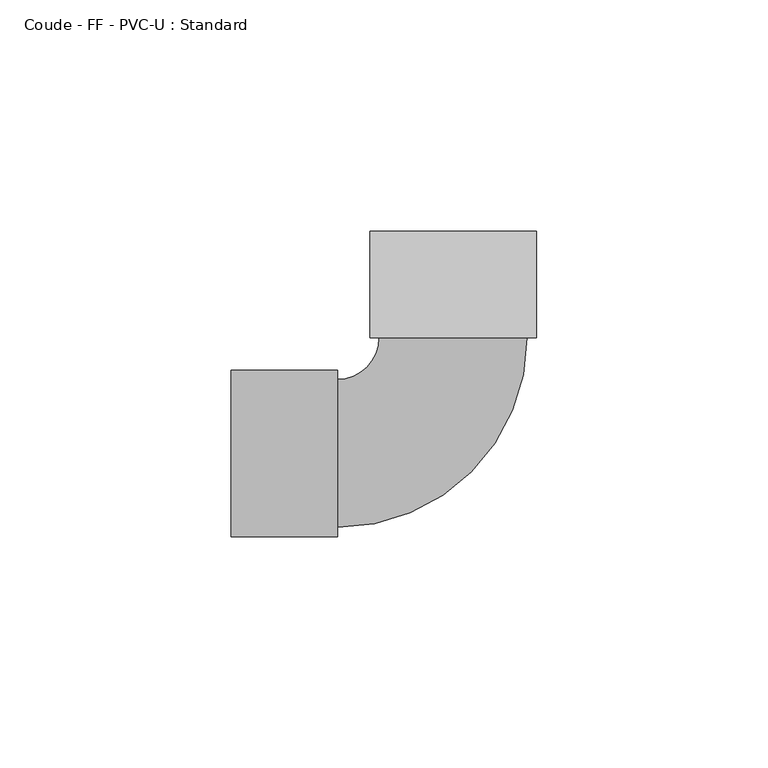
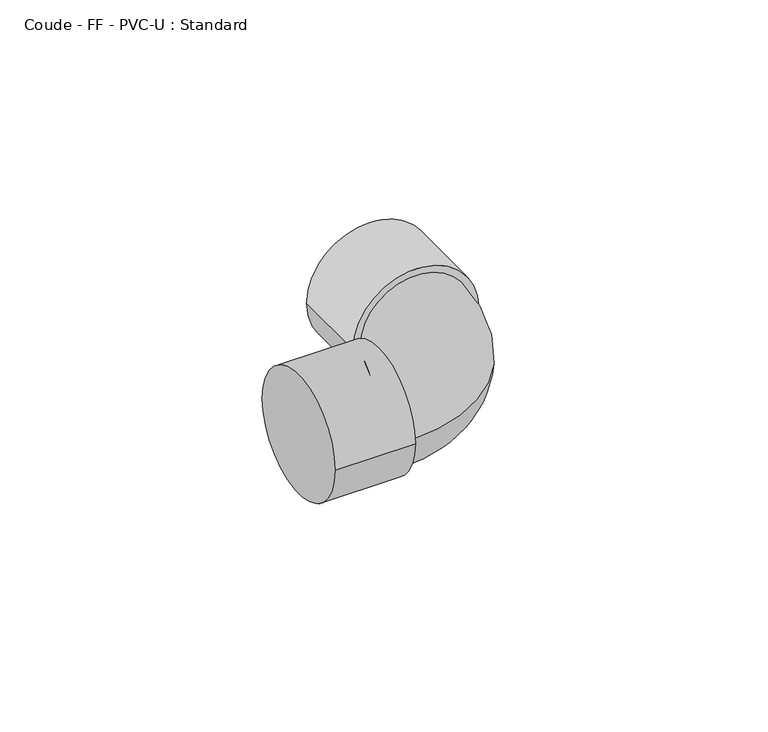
"""IFC4 building model written with IfcOpenShell, lengths in millimetres: pipe fitting geometry, Coude - FF - PVC-U : Standard."""

from ifc_helpers import new_model, si_unit, point, frame, origin, place, context, project, spatial, circle_curve, ellipse_curve, trimmed, source, transform, mapped, element, save
from ifc_brep_helpers import plane_surface, cylinder_surface, revolved_surface, advanced_brep


def coude_ff_pvc_u_standard_af8978ce(model_context):
    return source(origin(), model_context, "Body", "AdvancedBrep", [
        advanced_brep(
        [(-48.0, -18.0, 0.0), (-48.0, 18.0, 0.0), (-25.0, -18.0, 0.0), (-25.0, 18.0, 0.0), (-25.0, -16.0, 0.0), (-25.0, 16.0, 0.0), (-15.9807972, 25.0122794, 0.0), (16.0191933, 24.9877059, 0.0), (18.0191927, 24.98617, 0.0), (-17.9807966, 25.0138152, 0.0), (18.0368549, 47.9861633, 0.0), (-17.9631344, 48.0138084, 0.0)],
        [
            (0, 1, circle_curve(frame((-48.0, 0.0, 0.0), z_axis=(-1.0, 0.0, 0.0), x_axis=(0.0, 1.0, 0.0)), 18.0)),
            (1, 0, circle_curve(frame((-48.0, 0.0, 0.0), z_axis=(-1.0, 0.0, 0.0), x_axis=(0.0, 1.0, 0.0)), 18.0)),
            (2, 3, circle_curve(frame((-25.0, 0.0, 0.0), z_axis=(1.0, 0.0, 0.0), x_axis=(0.0, 1.0, 0.0)), 18.0)),
            (3, 2, circle_curve(frame((-25.0, 0.0, 0.0), z_axis=(1.0, 0.0, 0.0), x_axis=(0.0, 1.0, 0.0)), 18.0)),
            (4, 5, circle_curve(frame((-25.0, 0.0, 0.0), z_axis=(-1.0, 0.0, 0.0), x_axis=(0.0, 1.0, 0.0)), 16.0)),
            (5, 4, circle_curve(frame((-25.0, 0.0, 0.0), z_axis=(-1.0, 0.0, 0.0), x_axis=(0.0, 1.0, 0.0)), 16.0)),
            (0, 2),
            (3, 1),
            (6, 5, circle_curve(frame((-25.0, 25.0192054, 0.0), z_axis=(0.0, 0.0, -1.0), x_axis=(0.0, -1.0, 0.0)), 9.0192054)),
            (4, 7, circle_curve(frame((-25.0, 25.0192054, 0.0), z_axis=(0.0, 0.0, 1.0), x_axis=(0.0, -1.0, 0.0)), 41.0192054)),
            (7, 6, circle_curve(frame((0.0191981, 24.9999926, 0.0), z_axis=(-0.0007679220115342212, -0.9999997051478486, 0.0), x_axis=(-0.9999997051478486, 0.0007679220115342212, 0.0)), 16.0)),
            (6, 7, circle_curve(frame((0.0191981, 24.9999926, 0.0), z_axis=(-0.0007679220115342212, -0.9999997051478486, 0.0), x_axis=(-0.9999997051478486, 0.0007679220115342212, 0.0)), 16.0)),
            (8, 9, circle_curve(frame((0.0191981, 24.9999926, 0.0), z_axis=(-0.0007679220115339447, -0.9999997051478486, 0.0), x_axis=(-0.9999997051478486, 0.0007679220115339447, 0.0)), 18.0)),
            (9, 8, circle_curve(frame((0.0191981, 24.9999926, 0.0), z_axis=(-0.0007679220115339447, -0.9999997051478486, 0.0), x_axis=(-0.9999997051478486, 0.0007679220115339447, 0.0)), 18.0)),
            (10, 11, circle_curve(frame((0.0368603, 47.9999858, 0.0), z_axis=(0.0007679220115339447, 0.9999997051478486, 0.0), x_axis=(-0.9999997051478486, 0.0007679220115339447, 0.0)), 18.0)),
            (11, 10, circle_curve(frame((0.0368603, 47.9999858, 0.0), z_axis=(0.0007679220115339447, 0.9999997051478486, 0.0), x_axis=(-0.9999997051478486, 0.0007679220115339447, 0.0)), 18.0)),
            (8, 10),
            (11, 9),
        ],
        [
            plane_surface(frame((-48.0, 0.0, 0.0), z_axis=(-1.0, 0.0, 0.0), x_axis=(0.0, 0.0, 1.0))),
            plane_surface(frame((-25.0, 0.0, 0.0), z_axis=(1.0, 0.0, 0.0), x_axis=(0.0, 0.0, 1.0))),
            cylinder_surface(frame((-48.0, 0.0, 0.0), z_axis=(-1.0, 0.0, 0.0), x_axis=(0.0, 1.0, 0.0)), 18.0),
            revolved_surface(trimmed(ellipse_curve(frame((-25.0, 0.0, 0.0), z_axis=(-1.0, 0.0, 0.0), x_axis=(0.0, 1.0, 0.0)), 16.0, 16.0), [point((-25.0, -16.0, 0.0))], [point((-25.0, 16.0, 0.0))], True, "CARTESIAN"), (-25.0, 25.0192054, 0.0), (0.0, 0.0, 1.0)),
            revolved_surface(trimmed(ellipse_curve(frame((-25.0, 0.0, 0.0), z_axis=(-1.0, 0.0, 0.0), x_axis=(0.0, 1.0, 0.0)), 16.0, 16.0), [point((-25.0, 16.0, 0.0))], [point((-25.0, -16.0, 0.0))], True, "CARTESIAN"), (-25.0, 25.0192054, 0.0), (0.0, 0.0, 1.0)),
            plane_surface(frame((0.0191981, 24.9999926, 0.0), z_axis=(-0.0007679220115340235, -0.9999997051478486, 0.0), x_axis=(0.0, 0.0, 1.0))),
            plane_surface(frame((0.0368603, 47.9999858, 0.0), z_axis=(0.0007679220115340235, 0.9999997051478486, 0.0), x_axis=(0.0, 0.0, 1.0))),
            cylinder_surface(frame((0.0191981, 24.9999926, 0.0), z_axis=(-0.0007679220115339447, -0.9999997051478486, 0.0), x_axis=(-0.9999997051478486, 0.0007679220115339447, 0.0)), 18.0),
        ],
        [
            (0, [[1, 2]]),
            (1, [[3, 4], [5, 6]]),
            (2, [[-1, 7, -4, 8]]),
            (2, [[-2, -8, -3, -7]]),
            (3, [[9, -5, 10, 11]]),
            (4, [[-9, 12, -10, -6]]),
            (5, [[13, 14], [-11, -12]]),
            (6, [[15, 16]]),
            (7, [[-13, 17, -16, 18]]),
            (7, [[-14, -18, -15, -17]]),
        ],
    ),
    ])


if __name__ == "__main__":
    model = new_model("IFC4")
    model_context = context("Model", 3, world=origin())
    ifc_project = project(units=[si_unit("LENGTHUNIT", "METRE", prefix="MILLI")], contexts=[model_context])
    site = spatial("IfcSite", under=ifc_project)
    building = spatial("IfcBuilding", under=site)
    placement = place(None, origin())
    coude_ff_pvc_u_standard_shape = coude_ff_pvc_u_standard_af8978ce(model_context)
    element("IfcPipeFitting", 1, ObjectType="Coude - FF - PVC-U : Standard", at=placement, inside=building, context=model_context, shape_type="MappedRepresentation", body=[
        mapped(coude_ff_pvc_u_standard_shape, transform((0.0, 0.0, 0.0), x_axis=(1.0, 0.0, 0.0), y_axis=(0.0, 1.0, 0.0), z_axis=(0.0, 0.0, 1.0))),
    ])
    save(model, "model.ifc")
